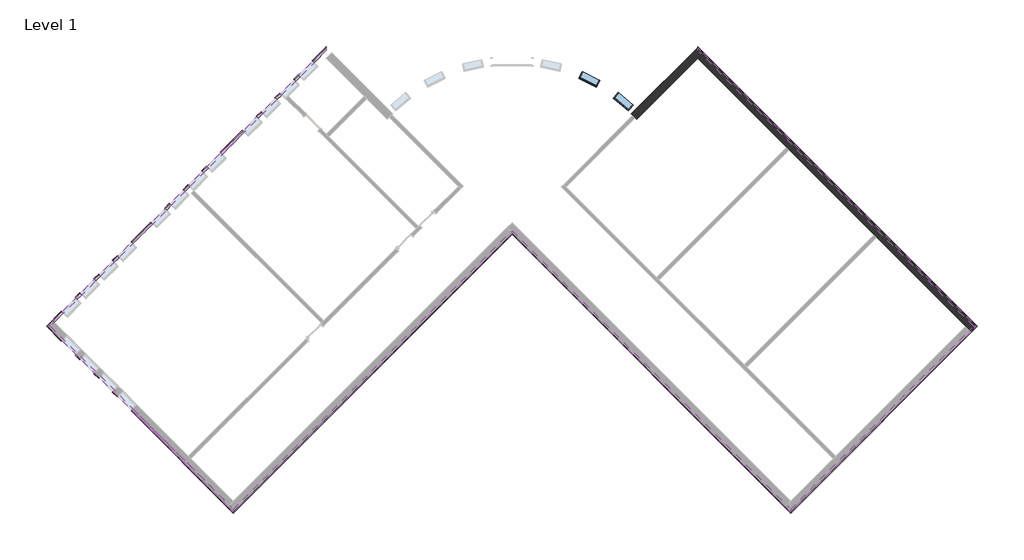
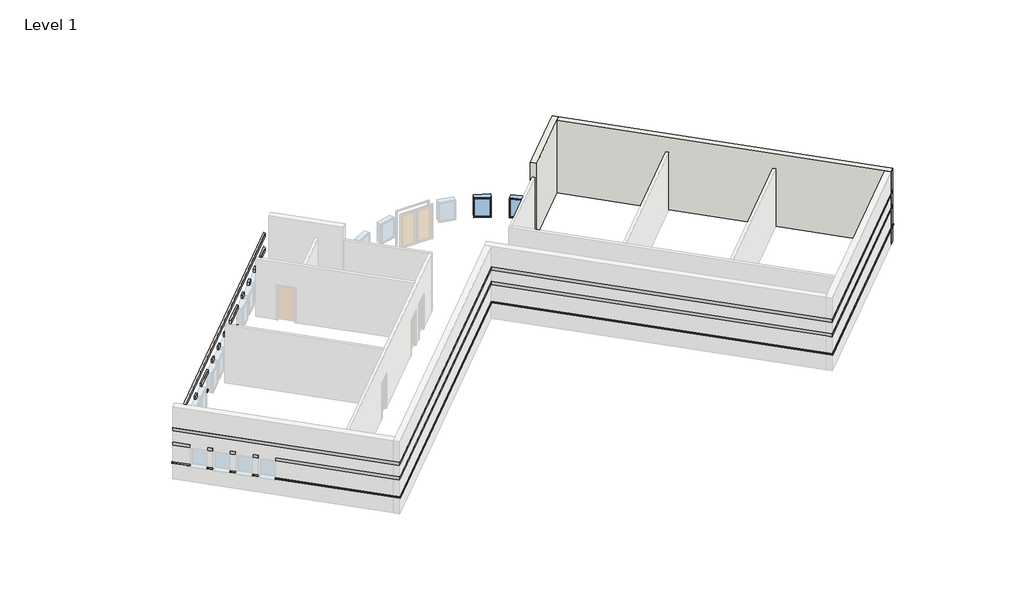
# One storey, part 2 of 2: 18 proxies, 2 walls, 2 windows.
"""IFC4 building model written with IfcOpenShell, lengths in millimetres."""

from ifc_helpers import new_model, si_unit, frame, origin, place, context, project, spatial, polyline, circle_curve, faceted_brep, transform, mapped, element, save
from ifc_brep_helpers import plane_surface, cylinder_surface, revolved_surface, advanced_brep
from components import window_0e2fc6ce

model = new_model("IFC4")

# Units and contexts
model_context = context("Model", 3, world=origin())
ifc_project = project(units=[si_unit("LENGTHUNIT", "METRE", prefix="MILLI")], contexts=[model_context])

# Site, building, storey
site = spatial("IfcSite", under=ifc_project)
building = spatial("IfcBuilding", under=site)
storey = spatial("IfcBuildingStorey", under=building, Name="Level 1", Elevation=0.0)

# Proxies
placement = place(None, origin())
element("IfcBuildingElementProxy", 1, Name="Wall Sweeps", at=placement, inside=storey, context=model_context, shape_type="Brep", body=[
    faceted_brep([(5753.0175119, 11443.3655905, 1085.85), (5753.0175119, 11573.5793042, 1085.85), (5753.0175119, 11622.9707129, 1041.4), (5753.0175119, 11622.9707129, 1016.0), (5753.0175119, 11443.3655905, 1016.0), (18554.3726125, -1357.9895101, 1085.85), (18554.3726125, -1357.9895101, 1016.0), (18733.9777349, -1357.9895101, 1016.0), (18733.9777349, -1357.9895101, 1041.4), (18684.5863263, -1357.9895101, 1085.85), (5937.1127624, 11259.27034, 1085.85), (5937.1127624, 11259.27034, 1016.0)], [[[0, 1, 2, 3, 4]], [[5, 6, 7, 8, 9]], [[1, 0, 10, 5, 9]], [[2, 1, 9, 8]], [[3, 2, 8, 7]], [[4, 3, 7, 6, 11]], [[0, 4, 11, 6, 5, 10]]]),
])
element("IfcBuildingElementProxy", 2, Name="Wall Sweeps", at=placement, inside=storey, context=model_context, shape_type="Brep", body=[
    faceted_brep([(5753.0175119, 11573.5793042, 2336.8), (5753.0175119, 11573.5793042, 2133.6), (5753.0175119, 11443.3655905, 2133.6), (5753.0175119, 11443.3655905, 2336.8), (18684.5863263, -1357.9895101, 2336.8), (18554.3726125, -1357.9895101, 2336.8), (18554.3726125, -1357.9895101, 2133.6), (18684.5863263, -1357.9895101, 2133.6), (6002.2196193, 11324.3771969, 2336.8), (6002.2196193, 11324.3771969, 2133.6), (5937.1127624, 11259.27034, 2133.6), (5937.1127624, 11259.27034, 2336.8)], [[[0, 1, 2, 3]], [[4, 5, 6, 7]], [[1, 0, 8, 4, 7, 9]], [[2, 1, 9, 7, 6, 10]], [[3, 2, 10, 6, 5, 11]], [[0, 3, 11, 5, 4, 8]]]),
])
element("IfcBuildingElementProxy", 3, Name="Wall Sweeps", at=placement, inside=storey, context=model_context, shape_type="Brep", body=[
    faceted_brep([(5753.0175119, 11573.5793042, 3251.2), (5753.0175119, 11573.5793042, 3048.0), (5753.0175119, 11443.3655905, 3048.0), (5753.0175119, 11443.3655905, 3251.2), (18684.5863263, -1357.9895101, 3251.2), (18554.3726125, -1357.9895101, 3251.2), (18554.3726125, -1357.9895101, 3048.0), (18684.5863263, -1357.9895101, 3048.0), (6002.2196193, 11324.3771969, 3251.2), (6002.2196193, 11324.3771969, 3048.0), (5937.1127624, 11259.27034, 3048.0), (5937.1127624, 11259.27034, 3251.2)], [[[0, 1, 2, 3]], [[4, 5, 6, 7]], [[1, 0, 8, 4, 7, 9]], [[2, 1, 9, 7, 6, 10]], [[3, 2, 10, 6, 5, 11]], [[0, 3, 11, 5, 4, 8]]]),
])
element("IfcBuildingElementProxy", 4, Name="Wall Sweeps", at=placement, inside=storey, context=model_context, shape_type="Brep", body=[
    faceted_brep([(18554.3726125, -1357.9895101, 1085.85), (18684.5863263, -1357.9895101, 1085.85), (18733.9777349, -1357.9895101, 1041.4), (18733.9777349, -1357.9895101, 1016.0), (18554.3726125, -1357.9895101, 1016.0), (10063.54045, -9848.8216726, 1085.85), (10063.54045, -9848.8216726, 1016.0), (10063.54045, -10028.426795, 1016.0), (10063.54045, -10028.426795, 1041.4), (10063.54045, -9979.0353863, 1085.85), (18370.277362, -1542.0847606, 1085.85), (18370.277362, -1542.0847606, 1016.0)], [[[0, 1, 2, 3, 4]], [[5, 6, 7, 8, 9]], [[1, 0, 10, 5, 9]], [[2, 1, 9, 8]], [[3, 2, 8, 7]], [[4, 3, 7, 6, 11]], [[0, 4, 11, 6, 5, 10]]]),
])
element("IfcBuildingElementProxy", 5, Name="Wall Sweeps", at=placement, inside=storey, context=model_context, shape_type="Brep", body=[
    faceted_brep([(18684.5863263, -1357.9895101, 2336.8), (18684.5863263, -1357.9895101, 2133.6), (18554.3726125, -1357.9895101, 2133.6), (18554.3726125, -1357.9895101, 2336.8), (10063.54045, -9979.0353863, 2336.8), (10063.54045, -9848.8216726, 2336.8), (10063.54045, -9848.8216726, 2133.6), (10063.54045, -9979.0353863, 2133.6), (18435.3842189, -1607.1916175, 2336.8), (18435.3842189, -1607.1916175, 2133.6), (18370.277362, -1542.0847606, 2133.6), (18370.277362, -1542.0847606, 2336.8)], [[[0, 1, 2, 3]], [[4, 5, 6, 7]], [[1, 0, 8, 4, 7, 9]], [[2, 1, 9, 7, 6, 10]], [[3, 2, 10, 6, 5, 11]], [[0, 3, 11, 5, 4, 8]]]),
])
element("IfcBuildingElementProxy", 6, Name="Wall Sweeps", at=placement, inside=storey, context=model_context, shape_type="Brep", body=[
    faceted_brep([(18684.5863263, -1357.9895101, 3251.2), (18684.5863263, -1357.9895101, 3048.0), (18554.3726125, -1357.9895101, 3048.0), (18554.3726125, -1357.9895101, 3251.2), (10063.54045, -9979.0353863, 3251.2), (10063.54045, -9848.8216726, 3251.2), (10063.54045, -9848.8216726, 3048.0), (10063.54045, -9979.0353863, 3048.0), (18435.3842189, -1607.1916175, 3251.2), (18435.3842189, -1607.1916175, 3048.0), (18370.277362, -1542.0847606, 3048.0), (18370.277362, -1542.0847606, 3251.2)], [[[0, 1, 2, 3]], [[4, 5, 6, 7]], [[1, 0, 8, 4, 7, 9]], [[2, 1, 9, 7, 6, 10]], [[3, 2, 10, 6, 5, 11]], [[0, 3, 11, 5, 4, 8]]]),
])
element("IfcBuildingElementProxy", 7, Name="Wall Sweeps", at=placement, inside=storey, context=model_context, shape_type="Brep", body=[
    faceted_brep([(10063.54045, -9848.8216726, 1085.85), (10063.54045, -9979.0353863, 1085.85), (10063.54045, -10028.426795, 1041.4), (10063.54045, -10028.426795, 1016.0), (10063.54045, -9848.8216726, 1016.0), (-2868.0283643, 3082.7471418, 1085.85), (-2868.0283643, 3082.7471418, 1016.0), (-2868.0283643, 2903.1420194, 1016.0), (-2868.0283643, 2903.1420194, 1041.4), (-2868.0283643, 2952.533428, 1085.85), (9879.4451996, -9664.7264221, 1085.85), (9879.4451996, -9664.7264221, 1016.0)], [[[0, 1, 2, 3, 4]], [[5, 6, 7, 8, 9]], [[1, 0, 10, 5, 9]], [[2, 1, 9, 8]], [[3, 2, 8, 7]], [[4, 3, 7, 6, 11]], [[0, 4, 11, 6, 5, 10]]]),
])
element("IfcBuildingElementProxy", 8, Name="Wall Sweeps", at=placement, inside=storey, context=model_context, shape_type="Brep", body=[
    faceted_brep([(10063.54045, -9979.0353863, 2336.8), (10063.54045, -9979.0353863, 2133.6), (10063.54045, -9848.8216726, 2133.6), (10063.54045, -9848.8216726, 2336.8), (-2868.0283643, 2952.533428, 2336.8), (-2868.0283643, 3082.7471418, 2336.8), (-2868.0283643, 3082.7471418, 2133.6), (-2868.0283643, 2952.533428, 2133.6), (9814.3383427, -9729.833279, 2336.8), (9814.3383427, -9729.833279, 2133.6), (9879.4451996, -9664.7264221, 2133.6), (9879.4451996, -9664.7264221, 2336.8)], [[[0, 1, 2, 3]], [[4, 5, 6, 7]], [[1, 0, 8, 4, 7, 9]], [[2, 1, 9, 7, 6, 10]], [[3, 2, 10, 6, 5, 11]], [[0, 3, 11, 5, 4, 8]]]),
])
element("IfcBuildingElementProxy", 9, Name="Wall Sweeps", at=placement, inside=storey, context=model_context, shape_type="Brep", body=[
    faceted_brep([(10063.54045, -9979.0353863, 3251.2), (10063.54045, -9979.0353863, 3048.0), (10063.54045, -9848.8216726, 3048.0), (10063.54045, -9848.8216726, 3251.2), (-2868.0283643, 2952.533428, 3251.2), (-2868.0283643, 3082.7471418, 3251.2), (-2868.0283643, 3082.7471418, 3048.0), (-2868.0283643, 2952.533428, 3048.0), (9814.3383427, -9729.833279, 3251.2), (9814.3383427, -9729.833279, 3048.0), (9879.4451996, -9664.7264221, 3048.0), (9879.4451996, -9664.7264221, 3251.2)], [[[0, 1, 2, 3]], [[4, 5, 6, 7]], [[1, 0, 8, 4, 7, 9]], [[2, 1, 9, 7, 6, 10]], [[3, 2, 10, 6, 5, 11]], [[0, 3, 11, 5, 4, 8]]]),
])
element("IfcBuildingElementProxy", 10, Name="Wall Sweeps", at=placement, inside=storey, context=model_context, shape_type="Brep", body=[
    faceted_brep([(-2868.0283643, 3082.7471418, 1085.85), (-2868.0283643, 2952.533428, 1085.85), (-2868.0283643, 2903.1420194, 1041.4), (-2868.0283643, 2903.1420194, 1016.0), (-2868.0283643, 3082.7471418, 1016.0), (-15799.5971786, -9848.8216726, 1085.85), (-15799.5971786, -9848.8216726, 1016.0), (-15799.5971786, -10028.426795, 1016.0), (-15799.5971786, -10028.426795, 1041.4), (-15799.5971786, -9979.0353863, 1085.85), (-2933.1352212, 3017.6402849, 1085.85), (-2933.1352212, 3017.6402849, 1016.0)], [[[0, 1, 2, 3, 4]], [[5, 6, 7, 8, 9]], [[1, 0, 10, 5, 9]], [[2, 1, 9, 8]], [[3, 2, 8, 7]], [[4, 3, 7, 6, 11]], [[0, 4, 11, 6, 5, 10]]]),
])
element("IfcBuildingElementProxy", 11, Name="Wall Sweeps", at=placement, inside=storey, context=model_context, shape_type="Brep", body=[
    faceted_brep([(-2868.0283643, 2952.533428, 2336.8), (-2868.0283643, 2952.533428, 2133.6), (-2868.0283643, 3082.7471418, 2133.6), (-2868.0283643, 3082.7471418, 2336.8), (-15799.5971786, -9979.0353863, 2336.8), (-15799.5971786, -9848.8216726, 2336.8), (-15799.5971786, -9848.8216726, 2133.6), (-15799.5971786, -9979.0353863, 2133.6), (-2933.1352212, 3017.6402849, 2133.6), (-2933.1352212, 3017.6402849, 2336.8)], [[[0, 1, 2, 3]], [[4, 5, 6, 7]], [[1, 0, 4, 7]], [[2, 1, 7, 6, 8]], [[3, 2, 8, 6, 5, 9]], [[0, 3, 9, 5, 4]]]),
])
element("IfcBuildingElementProxy", 12, Name="Wall Sweeps", at=placement, inside=storey, context=model_context, shape_type="Brep", body=[
    faceted_brep([(-2868.0283643, 2952.533428, 3251.2), (-2868.0283643, 2952.533428, 3048.0), (-2868.0283643, 3082.7471418, 3048.0), (-2868.0283643, 3082.7471418, 3251.2), (-15799.5971786, -9979.0353863, 3251.2), (-15799.5971786, -9848.8216726, 3251.2), (-15799.5971786, -9848.8216726, 3048.0), (-15799.5971786, -9979.0353863, 3048.0), (-2933.1352212, 3017.6402849, 3048.0), (-2933.1352212, 3017.6402849, 3251.2)], [[[0, 1, 2, 3]], [[4, 5, 6, 7]], [[1, 0, 4, 7]], [[2, 1, 7, 6, 8]], [[3, 2, 8, 6, 5, 9]], [[0, 3, 9, 5, 4]]]),
])
element("IfcBuildingElementProxy", 13, Name="Wall Sweeps", at=placement, inside=storey, context=model_context, shape_type="Brep", body=[
    faceted_brep([(-15799.5971786, -9848.8216726, 1085.85), (-15799.5971786, -9979.0353863, 1085.85), (-15799.5971786, -10028.426795, 1041.4), (-15799.5971786, -10028.426795, 1016.0), (-15799.5971786, -9848.8216726, 1016.0), (-20459.2275735, -5189.1912777, 1085.85), (-20459.2275735, -5189.1912777, 1016.0), (-20524.3344303, -5254.2981346, 1016.0), (-20549.0301347, -5278.993839, 1016.0), (-20549.0301347, -5278.993839, 1041.4), (-20524.3344303, -5254.2981346, 1085.85), (-15983.6924291, -9664.7264221, 1085.85), (-15983.6924291, -9664.7264221, 1016.0)], [[[0, 1, 2, 3, 4]], [[5, 6, 7, 8, 9, 10]], [[1, 0, 11, 5, 10]], [[2, 1, 10, 9]], [[3, 2, 9, 8]], [[4, 3, 8, 7, 6, 12]], [[0, 4, 12, 6, 5, 11]]]),
    faceted_brep([(-21105.8060142, -4542.612837, 1085.85), (-21170.9128711, -4607.7196939, 1085.85), (-21195.6085754, -4632.4153982, 1041.4), (-21195.6085754, -4632.4153982, 1016.0), (-21170.9128711, -4607.7196939, 1016.0), (-21105.8060142, -4542.612837, 1016.0), (-21321.3321611, -4327.0866901, 1085.85), (-21321.3321611, -4327.0866901, 1016.0), (-21386.439018, -4392.193547, 1016.0), (-21411.1347223, -4416.8892513, 1016.0), (-21411.1347223, -4416.8892513, 1041.4), (-21386.439018, -4392.193547, 1085.85)], [[[0, 1, 2, 3, 4, 5]], [[6, 7, 8, 9, 10, 11]], [[1, 0, 6, 11]], [[2, 1, 11, 10]], [[3, 2, 10, 9]], [[5, 4, 3, 9, 8, 7]], [[0, 5, 7, 6]]]),
    faceted_brep([(-21967.9106018, -3680.5082494, 1085.85), (-22033.0174587, -3745.6151063, 1085.85), (-22057.713163, -3770.3108106, 1041.4), (-22057.713163, -3770.3108106, 1016.0), (-22033.0174587, -3745.6151063, 1016.0), (-21967.9106018, -3680.5082494, 1016.0), (-22183.4367487, -3464.9821025, 1085.85), (-22183.4367487, -3464.9821025, 1016.0), (-22248.5436056, -3530.0889594, 1016.0), (-22273.2393099, -3554.7846637, 1016.0), (-22273.2393099, -3554.7846637, 1041.4), (-22248.5436056, -3530.0889594, 1085.85)], [[[0, 1, 2, 3, 4, 5]], [[6, 7, 8, 9, 10, 11]], [[1, 0, 6, 11]], [[2, 1, 11, 10]], [[3, 2, 10, 9]], [[5, 4, 3, 9, 8, 7]], [[0, 5, 7, 6]]]),
    faceted_brep([(-22830.0151894, -2818.4036618, 1085.85), (-22895.1220463, -2883.5105187, 1085.85), (-22919.8177506, -2908.206223, 1041.4), (-22919.8177506, -2908.206223, 1016.0), (-22895.1220463, -2883.5105187, 1016.0), (-22830.0151894, -2818.4036618, 1016.0), (-23045.5413363, -2602.8775149, 1085.85), (-23045.5413363, -2602.8775149, 1016.0), (-23110.6481932, -2667.9843718, 1016.0), (-23135.3438975, -2692.6800761, 1016.0), (-23135.3438975, -2692.6800761, 1041.4), (-23110.6481932, -2667.9843718, 1085.85)], [[[0, 1, 2, 3, 4, 5]], [[6, 7, 8, 9, 10, 11]], [[1, 0, 6, 11]], [[2, 1, 11, 10]], [[3, 2, 10, 9]], [[5, 4, 3, 9, 8, 7]], [[0, 5, 7, 6]]]),
    faceted_brep([(-23692.119777, -1956.2990742, 1085.85), (-23757.2266339, -2021.405931, 1085.85), (-23781.9223383, -2046.1016354, 1041.4), (-23781.9223383, -2046.1016354, 1016.0), (-23757.2266339, -2021.405931, 1016.0), (-23692.119777, -1956.2990742, 1016.0), (-24290.4293411, -1357.9895101, 1085.85), (-24290.4293411, -1357.9895101, 1016.0), (-24470.0344635, -1357.9895101, 1016.0), (-24470.0344635, -1357.9895101, 1041.4), (-24420.6430549, -1357.9895101, 1085.85)], [[[0, 1, 2, 3, 4, 5]], [[6, 7, 8, 9, 10]], [[1, 0, 6, 10]], [[2, 1, 10, 9]], [[3, 2, 9, 8]], [[5, 4, 3, 8, 7]], [[0, 5, 7, 6]]]),
])
element("IfcBuildingElementProxy", 14, Name="Wall Sweeps", at=placement, inside=storey, context=model_context, shape_type="Brep", body=[
    faceted_brep([(-15799.5971786, -9979.0353863, 2336.8), (-15799.5971786, -9979.0353863, 2133.6), (-15799.5971786, -9848.8216726, 2133.6), (-15799.5971786, -9848.8216726, 2336.8), (-20524.3344303, -5254.2981346, 2336.8), (-20459.2275735, -5189.1912777, 2336.8), (-20459.2275735, -5189.1912777, 2133.6), (-20524.3344303, -5254.2981346, 2133.6), (-16048.799286, -9729.833279, 2336.8), (-16048.799286, -9729.833279, 2133.6), (-15983.6924291, -9664.7264221, 2133.6), (-15983.6924291, -9664.7264221, 2336.8)], [[[0, 1, 2, 3]], [[4, 5, 6, 7]], [[1, 0, 8, 4, 7, 9]], [[2, 1, 9, 7, 6, 10]], [[3, 2, 10, 6, 5, 11]], [[0, 3, 11, 5, 4, 8]]]),
    faceted_brep([(-21170.9128711, -4607.7196939, 2336.8), (-21170.9128711, -4607.7196939, 2133.6), (-21105.8060142, -4542.612837, 2133.6), (-21105.8060142, -4542.612837, 2336.8), (-21386.439018, -4392.193547, 2336.8), (-21321.3321611, -4327.0866901, 2336.8), (-21321.3321611, -4327.0866901, 2133.6), (-21386.439018, -4392.193547, 2133.6)], [[[0, 1, 2, 3]], [[4, 5, 6, 7]], [[1, 0, 4, 7]], [[2, 1, 7, 6]], [[3, 2, 6, 5]], [[0, 3, 5, 4]]]),
    faceted_brep([(-22033.0174587, -3745.6151063, 2336.8), (-22033.0174587, -3745.6151063, 2133.6), (-21967.9106018, -3680.5082494, 2133.6), (-21967.9106018, -3680.5082494, 2336.8), (-22248.5436056, -3530.0889594, 2336.8), (-22183.4367487, -3464.9821025, 2336.8), (-22183.4367487, -3464.9821025, 2133.6), (-22248.5436056, -3530.0889594, 2133.6)], [[[0, 1, 2, 3]], [[4, 5, 6, 7]], [[1, 0, 4, 7]], [[2, 1, 7, 6]], [[3, 2, 6, 5]], [[0, 3, 5, 4]]]),
    faceted_brep([(-22895.1220463, -2883.5105187, 2336.8), (-22895.1220463, -2883.5105187, 2133.6), (-22830.0151894, -2818.4036618, 2133.6), (-22830.0151894, -2818.4036618, 2336.8), (-23110.6481932, -2667.9843718, 2336.8), (-23045.5413363, -2602.8775149, 2336.8), (-23045.5413363, -2602.8775149, 2133.6), (-23110.6481932, -2667.9843718, 2133.6)], [[[0, 1, 2, 3]], [[4, 5, 6, 7]], [[1, 0, 4, 7]], [[2, 1, 7, 6]], [[3, 2, 6, 5]], [[0, 3, 5, 4]]]),
    faceted_brep([(-23757.2266339, -2021.405931, 2336.8), (-23757.2266339, -2021.405931, 2133.6), (-23692.119777, -1956.2990742, 2133.6), (-23692.119777, -1956.2990742, 2336.8), (-24420.6430549, -1357.9895101, 2336.8), (-24290.4293411, -1357.9895101, 2336.8), (-24290.4293411, -1357.9895101, 2133.6), (-24420.6430549, -1357.9895101, 2133.6)], [[[0, 1, 2, 3]], [[4, 5, 6, 7]], [[1, 0, 4, 7]], [[2, 1, 7, 6]], [[3, 2, 6, 5]], [[0, 3, 5, 4]]]),
])
element("IfcBuildingElementProxy", 15, Name="Wall Sweeps", at=placement, inside=storey, context=model_context, shape_type="Brep", body=[
    faceted_brep([(-15799.5971786, -9979.0353863, 3251.2), (-15799.5971786, -9979.0353863, 3048.0), (-15799.5971786, -9848.8216726, 3048.0), (-15799.5971786, -9848.8216726, 3251.2), (-24420.6430549, -1357.9895101, 3251.2), (-24290.4293411, -1357.9895101, 3251.2), (-24290.4293411, -1357.9895101, 3048.0), (-24420.6430549, -1357.9895101, 3048.0), (-16048.799286, -9729.833279, 3251.2), (-16048.799286, -9729.833279, 3048.0), (-15983.6924291, -9664.7264221, 3048.0), (-15983.6924291, -9664.7264221, 3251.2)], [[[0, 1, 2, 3]], [[4, 5, 6, 7]], [[1, 0, 8, 4, 7, 9]], [[2, 1, 9, 7, 6, 10]], [[3, 2, 10, 6, 5, 11]], [[0, 3, 11, 5, 4, 8]]]),
])
element("IfcBuildingElementProxy", 16, Name="Wall Sweeps", at=placement, inside=storey, context=model_context, shape_type="Brep", body=[
    faceted_brep([(-24290.4293411, -1357.9895101, 1085.85), (-24420.6430549, -1357.9895101, 1085.85), (-24470.0344635, -1357.9895101, 1041.4), (-24470.0344635, -1357.9895101, 1016.0), (-24290.4293411, -1357.9895101, 1016.0), (-23692.119777, -759.679946, 1085.85), (-23692.119777, -759.679946, 1016.0), (-23757.2266339, -694.5730891, 1016.0), (-23781.9223383, -669.8773848, 1016.0), (-23781.9223383, -669.8773848, 1041.4), (-23757.2266339, -694.5730891, 1085.85), (-24106.3340906, -1173.8942596, 1085.85), (-24106.3340906, -1173.8942596, 1016.0)], [[[0, 1, 2, 3, 4]], [[5, 6, 7, 8, 9, 10]], [[1, 0, 11, 5, 10]], [[2, 1, 10, 9]], [[3, 2, 9, 8]], [[4, 3, 8, 7, 6, 12]], [[0, 4, 12, 6, 5, 11]]]),
    faceted_brep([(-23045.5413363, -113.1015053, 1085.85), (-23110.6481932, -47.9946484, 1085.85), (-23135.3438975, -23.2989441, 1041.4), (-23135.3438975, -23.2989441, 1016.0), (-23110.6481932, -47.9946484, 1016.0), (-23045.5413363, -113.1015053, 1016.0), (-22830.0151894, 102.4246416, 1085.85), (-22830.0151894, 102.4246416, 1016.0), (-22895.1220463, 167.5314985, 1016.0), (-22919.8177506, 192.2272028, 1016.0), (-22919.8177506, 192.2272028, 1041.4), (-22895.1220463, 167.5314985, 1085.85)], [[[0, 1, 2, 3, 4, 5]], [[6, 7, 8, 9, 10, 11]], [[1, 0, 6, 11]], [[2, 1, 11, 10]], [[3, 2, 10, 9]], [[5, 4, 3, 9, 8, 7]], [[0, 5, 7, 6]]]),
    faceted_brep([(-22183.4367487, 749.0030823, 1085.85), (-22248.5436056, 814.1099392, 1085.85), (-22273.2393099, 838.8056435, 1041.4), (-22273.2393099, 838.8056435, 1016.0), (-22248.5436056, 814.1099392, 1016.0), (-22183.4367487, 749.0030823, 1016.0), (-21967.9106018, 964.5292292, 1085.85), (-21967.9106018, 964.5292292, 1016.0), (-22033.0174587, 1029.6360861, 1016.0), (-22057.713163, 1054.3317904, 1016.0), (-22057.713163, 1054.3317904, 1041.4), (-22033.0174587, 1029.6360861, 1085.85)], [[[0, 1, 2, 3, 4, 5]], [[6, 7, 8, 9, 10, 11]], [[1, 0, 6, 11]], [[2, 1, 11, 10]], [[3, 2, 10, 9]], [[5, 4, 3, 9, 8, 7]], [[0, 5, 7, 6]]]),
    faceted_brep([(-21321.3321611, 1611.1076699, 1085.85), (-21386.439018, 1676.2145268, 1085.85), (-21411.1347223, 1700.9102311, 1041.4), (-21411.1347223, 1700.9102311, 1016.0), (-21386.439018, 1676.2145268, 1016.0), (-21321.3321611, 1611.1076699, 1016.0), (-21105.8060142, 1826.6338168, 1085.85), (-21105.8060142, 1826.6338168, 1016.0), (-21170.9128711, 1891.7406737, 1016.0), (-21195.6085754, 1916.4363781, 1016.0), (-21195.6085754, 1916.4363781, 1041.4), (-21170.9128711, 1891.7406737, 1085.85)], [[[0, 1, 2, 3, 4, 5]], [[6, 7, 8, 9, 10, 11]], [[1, 0, 6, 11]], [[2, 1, 11, 10]], [[3, 2, 10, 9]], [[5, 4, 3, 9, 8, 7]], [[0, 5, 7, 6]]]),
    faceted_brep([(-20459.2275735, 2473.2122576, 1085.85), (-20524.3344303, 2538.3191144, 1085.85), (-20549.0301347, 2563.0148188, 1041.4), (-20549.0301347, 2563.0148188, 1016.0), (-20524.3344303, 2538.3191144, 1016.0), (-20459.2275735, 2473.2122576, 1016.0), (-19544.2461989, 3388.1936322, 1085.85), (-19544.2461989, 3388.1936322, 1016.0), (-19609.3530557, 3453.300489, 1016.0), (-19634.0487601, 3477.9961934, 1016.0), (-19634.0487601, 3477.9961934, 1041.4), (-19609.3530557, 3453.300489, 1085.85)], [[[0, 1, 2, 3, 4, 5]], [[6, 7, 8, 9, 10, 11]], [[1, 0, 6, 11]], [[2, 1, 11, 10]], [[3, 2, 10, 9]], [[5, 4, 3, 9, 8, 7]], [[0, 5, 7, 6]]]),
    faceted_brep([(-18897.6677581, 4034.7720729, 1085.85), (-18962.774615, 4099.8789298, 1085.85), (-18987.4703194, 4124.5746341, 1041.4), (-18987.4703194, 4124.5746341, 1016.0), (-18962.774615, 4099.8789298, 1016.0), (-18897.6677581, 4034.7720729, 1016.0), (-18682.1416112, 4250.2982198, 1085.85), (-18682.1416112, 4250.2982198, 1016.0), (-18747.2484681, 4315.4050767, 1016.0), (-18771.9441724, 4340.100781, 1016.0), (-18771.9441724, 4340.100781, 1041.4), (-18747.2484681, 4315.4050767, 1085.85)], [[[0, 1, 2, 3, 4, 5]], [[6, 7, 8, 9, 10, 11]], [[1, 0, 6, 11]], [[2, 1, 11, 10]], [[3, 2, 10, 9]], [[5, 4, 3, 9, 8, 7]], [[0, 5, 7, 6]]]),
    faceted_brep([(-18035.5631705, 4896.8766605, 1085.85), (-18100.6700274, 4961.9835174, 1085.85), (-18125.3657317, 4986.6792217, 1041.4), (-18125.3657317, 4986.6792217, 1016.0), (-18100.6700274, 4961.9835174, 1016.0), (-18035.5631705, 4896.8766605, 1016.0), (-17820.0370236, 5112.4028074, 1085.85), (-17820.0370236, 5112.4028074, 1016.0), (-17885.1438805, 5177.5096643, 1016.0), (-17909.8395848, 5202.2053686, 1016.0), (-17909.8395848, 5202.2053686, 1041.4), (-17885.1438805, 5177.5096643, 1085.85)], [[[0, 1, 2, 3, 4, 5]], [[6, 7, 8, 9, 10, 11]], [[1, 0, 6, 11]], [[2, 1, 11, 10]], [[3, 2, 10, 9]], [[5, 4, 3, 9, 8, 7]], [[0, 5, 7, 6]]]),
    faceted_brep([(-17173.4585829, 5758.9812481, 1085.85), (-17238.5654398, 5824.088105, 1085.85), (-17263.2611441, 5848.7838093, 1041.4), (-17263.2611441, 5848.7838093, 1016.0), (-17238.5654398, 5824.088105, 1016.0), (-17173.4585829, 5758.9812481, 1016.0), (-16957.932436, 5974.507395, 1085.85), (-16957.932436, 5974.507395, 1016.0), (-17023.0392929, 6039.6142519, 1016.0), (-17047.7349972, 6064.3099562, 1016.0), (-17047.7349972, 6064.3099562, 1041.4), (-17023.0392929, 6039.6142519, 1085.85)], [[[0, 1, 2, 3, 4, 5]], [[6, 7, 8, 9, 10, 11]], [[1, 0, 6, 11]], [[2, 1, 11, 10]], [[3, 2, 10, 9]], [[5, 4, 3, 9, 8, 7]], [[0, 5, 7, 6]]]),
    faceted_brep([(-16311.3539953, 6621.0858357, 1085.85), (-16376.4608522, 6686.1926926, 1085.85), (-16401.1565565, 6710.888397, 1041.4), (-16401.1565565, 6710.888397, 1016.0), (-16376.4608522, 6686.1926926, 1016.0), (-16311.3539953, 6621.0858357, 1016.0), (-15286.3644832, 7646.0753478, 1085.85), (-15286.3644832, 7646.0753478, 1016.0), (-15351.4713401, 7711.1822047, 1016.0), (-15376.1670444, 7735.877909, 1016.0), (-15376.1670444, 7735.877909, 1041.4), (-15351.4713401, 7711.1822047, 1085.85)], [[[0, 1, 2, 3, 4, 5]], [[6, 7, 8, 9, 10, 11]], [[1, 0, 6, 11]], [[2, 1, 11, 10]], [[3, 2, 10, 9]], [[5, 4, 3, 9, 8, 7]], [[0, 5, 7, 6]]]),
    faceted_brep([(-14639.7860425, 8292.6537886, 1085.85), (-14704.8928993, 8357.7606454, 1085.85), (-14729.5886037, 8382.4563498, 1041.4), (-14729.5886037, 8382.4563498, 1016.0), (-14704.8928993, 8357.7606454, 1016.0), (-14639.7860425, 8292.6537886, 1016.0), (-14424.2598956, 8508.1799355, 1085.85), (-14424.2598956, 8508.1799355, 1016.0), (-14489.3667524, 8573.2867923, 1016.0), (-14514.0624568, 8597.9824967, 1016.0), (-14514.0624568, 8597.9824967, 1041.4), (-14489.3667524, 8573.2867923, 1085.85)], [[[0, 1, 2, 3, 4, 5]], [[6, 7, 8, 9, 10, 11]], [[1, 0, 6, 11]], [[2, 1, 11, 10]], [[3, 2, 10, 9]], [[5, 4, 3, 9, 8, 7]], [[0, 5, 7, 6]]]),
    faceted_brep([(-13777.6814548, 9154.7583762, 1085.85), (-13842.7883117, 9219.8652331, 1085.85), (-13867.4840161, 9244.5609374, 1041.4), (-13867.4840161, 9244.5609374, 1016.0), (-13842.7883117, 9219.8652331, 1016.0), (-13777.6814548, 9154.7583762, 1016.0), (-13562.1553079, 9370.2845231, 1085.85), (-13562.1553079, 9370.2845231, 1016.0), (-13627.2621648, 9435.39138, 1016.0), (-13651.9578691, 9460.0870843, 1016.0), (-13651.9578691, 9460.0870843, 1041.4), (-13627.2621648, 9435.39138, 1085.85)], [[[0, 1, 2, 3, 4, 5]], [[6, 7, 8, 9, 10, 11]], [[1, 0, 6, 11]], [[2, 1, 11, 10]], [[3, 2, 10, 9]], [[5, 4, 3, 9, 8, 7]], [[0, 5, 7, 6]]]),
    faceted_brep([(-12915.5768672, 10016.8629638, 1085.85), (-12980.6837241, 10081.9698207, 1085.85), (-13005.3794284, 10106.665525, 1041.4), (-13005.3794284, 10106.665525, 1016.0), (-12980.6837241, 10081.9698207, 1016.0), (-12915.5768672, 10016.8629638, 1016.0), (-12700.0507203, 10232.3891107, 1085.85), (-12700.0507203, 10232.3891107, 1016.0), (-12765.1575772, 10297.4959676, 1016.0), (-12789.8532815, 10322.1916719, 1016.0), (-12789.8532815, 10322.1916719, 1041.4), (-12765.1575772, 10297.4959676, 1085.85)], [[[0, 1, 2, 3, 4, 5]], [[6, 7, 8, 9, 10, 11]], [[1, 0, 6, 11]], [[2, 1, 11, 10]], [[3, 2, 10, 9]], [[5, 4, 3, 9, 8, 7]], [[0, 5, 7, 6]]]),
    faceted_brep([(-12053.4722796, 10878.9675514, 1085.85), (-12118.5791365, 10944.0744083, 1085.85), (-12143.2748408, 10968.7701126, 1041.4), (-12143.2748408, 10968.7701126, 1016.0), (-12118.5791365, 10944.0744083, 1016.0), (-12053.4722796, 10878.9675514, 1016.0), (-11489.0742405, 11443.3655905, 1085.85), (-11489.0742405, 11443.3655905, 1016.0), (-11489.0742405, 11622.9707129, 1016.0), (-11489.0742405, 11622.9707129, 1041.4), (-11489.0742405, 11573.5793042, 1085.85)], [[[0, 1, 2, 3, 4, 5]], [[6, 7, 8, 9, 10]], [[1, 0, 6, 10]], [[2, 1, 10, 9]], [[3, 2, 9, 8]], [[5, 4, 3, 8, 7]], [[0, 5, 7, 6]]]),
])
element("IfcBuildingElementProxy", 17, Name="Wall Sweeps", at=placement, inside=storey, context=model_context, shape_type="Brep", body=[
    faceted_brep([(-24420.6430549, -1357.9895101, 2336.8), (-24420.6430549, -1357.9895101, 2133.6), (-24290.4293411, -1357.9895101, 2133.6), (-24290.4293411, -1357.9895101, 2336.8), (-23757.2266339, -694.5730891, 2336.8), (-23692.119777, -759.679946, 2336.8), (-23692.119777, -759.679946, 2133.6), (-23757.2266339, -694.5730891, 2133.6), (-24171.4409475, -1108.7874027, 2336.8), (-24171.4409475, -1108.7874027, 2133.6), (-24106.3340906, -1173.8942596, 2133.6), (-24106.3340906, -1173.8942596, 2336.8)], [[[0, 1, 2, 3]], [[4, 5, 6, 7]], [[1, 0, 8, 4, 7, 9]], [[2, 1, 9, 7, 6, 10]], [[3, 2, 10, 6, 5, 11]], [[0, 3, 11, 5, 4, 8]]]),
    faceted_brep([(-23110.6481932, -47.9946484, 2336.8), (-23110.6481932, -47.9946484, 2133.6), (-23045.5413363, -113.1015053, 2133.6), (-23045.5413363, -113.1015053, 2336.8), (-22895.1220463, 167.5314985, 2336.8), (-22830.0151894, 102.4246416, 2336.8), (-22830.0151894, 102.4246416, 2133.6), (-22895.1220463, 167.5314985, 2133.6)], [[[0, 1, 2, 3]], [[4, 5, 6, 7]], [[1, 0, 4, 7]], [[2, 1, 7, 6]], [[3, 2, 6, 5]], [[0, 3, 5, 4]]]),
    faceted_brep([(-22248.5436056, 814.1099392, 2336.8), (-22248.5436056, 814.1099392, 2133.6), (-22183.4367487, 749.0030823, 2133.6), (-22183.4367487, 749.0030823, 2336.8), (-22033.0174587, 1029.6360861, 2336.8), (-21967.9106018, 964.5292292, 2336.8), (-21967.9106018, 964.5292292, 2133.6), (-22033.0174587, 1029.6360861, 2133.6)], [[[0, 1, 2, 3]], [[4, 5, 6, 7]], [[1, 0, 4, 7]], [[2, 1, 7, 6]], [[3, 2, 6, 5]], [[0, 3, 5, 4]]]),
    faceted_brep([(-21386.439018, 1676.2145268, 2336.8), (-21386.439018, 1676.2145268, 2133.6), (-21321.3321611, 1611.1076699, 2133.6), (-21321.3321611, 1611.1076699, 2336.8), (-21170.9128711, 1891.7406737, 2336.8), (-21105.8060142, 1826.6338168, 2336.8), (-21105.8060142, 1826.6338168, 2133.6), (-21170.9128711, 1891.7406737, 2133.6)], [[[0, 1, 2, 3]], [[4, 5, 6, 7]], [[1, 0, 4, 7]], [[2, 1, 7, 6]], [[3, 2, 6, 5]], [[0, 3, 5, 4]]]),
    faceted_brep([(-20524.3344303, 2538.3191144, 2336.8), (-20524.3344303, 2538.3191144, 2133.6), (-20459.2275735, 2473.2122576, 2133.6), (-20459.2275735, 2473.2122576, 2336.8), (-19609.3530557, 3453.300489, 2336.8), (-19544.2461989, 3388.1936322, 2336.8), (-19544.2461989, 3388.1936322, 2133.6), (-19609.3530557, 3453.300489, 2133.6)], [[[0, 1, 2, 3]], [[4, 5, 6, 7]], [[1, 0, 4, 7]], [[2, 1, 7, 6]], [[3, 2, 6, 5]], [[0, 3, 5, 4]]]),
    faceted_brep([(-18962.774615, 4099.8789298, 2336.8), (-18962.774615, 4099.8789298, 2133.6), (-18897.6677581, 4034.7720729, 2133.6), (-18897.6677581, 4034.7720729, 2336.8), (-18747.2484681, 4315.4050767, 2336.8), (-18682.1416112, 4250.2982198, 2336.8), (-18682.1416112, 4250.2982198, 2133.6), (-18747.2484681, 4315.4050767, 2133.6)], [[[0, 1, 2, 3]], [[4, 5, 6, 7]], [[1, 0, 4, 7]], [[2, 1, 7, 6]], [[3, 2, 6, 5]], [[0, 3, 5, 4]]]),
    faceted_brep([(-18100.6700274, 4961.9835174, 2336.8), (-18100.6700274, 4961.9835174, 2133.6), (-18035.5631705, 4896.8766605, 2133.6), (-18035.5631705, 4896.8766605, 2336.8), (-17885.1438805, 5177.5096643, 2336.8), (-17820.0370236, 5112.4028074, 2336.8), (-17820.0370236, 5112.4028074, 2133.6), (-17885.1438805, 5177.5096643, 2133.6)], [[[0, 1, 2, 3]], [[4, 5, 6, 7]], [[1, 0, 4, 7]], [[2, 1, 7, 6]], [[3, 2, 6, 5]], [[0, 3, 5, 4]]]),
    faceted_brep([(-17238.5654398, 5824.088105, 2336.8), (-17238.5654398, 5824.088105, 2133.6), (-17173.4585829, 5758.9812481, 2133.6), (-17173.4585829, 5758.9812481, 2336.8), (-17023.0392929, 6039.6142519, 2336.8), (-16957.932436, 5974.507395, 2336.8), (-16957.932436, 5974.507395, 2133.6), (-17023.0392929, 6039.6142519, 2133.6)], [[[0, 1, 2, 3]], [[4, 5, 6, 7]], [[1, 0, 4, 7]], [[2, 1, 7, 6]], [[3, 2, 6, 5]], [[0, 3, 5, 4]]]),
    faceted_brep([(-16376.4608522, 6686.1926926, 2336.8), (-16376.4608522, 6686.1926926, 2133.6), (-16311.3539953, 6621.0858357, 2133.6), (-16311.3539953, 6621.0858357, 2336.8), (-15351.4713401, 7711.1822047, 2336.8), (-15286.3644832, 7646.0753478, 2336.8), (-15286.3644832, 7646.0753478, 2133.6), (-15351.4713401, 7711.1822047, 2133.6)], [[[0, 1, 2, 3]], [[4, 5, 6, 7]], [[1, 0, 4, 7]], [[2, 1, 7, 6]], [[3, 2, 6, 5]], [[0, 3, 5, 4]]]),
    faceted_brep([(-14704.8928993, 8357.7606454, 2336.8), (-14704.8928993, 8357.7606454, 2133.6), (-14639.7860425, 8292.6537886, 2133.6), (-14639.7860425, 8292.6537886, 2336.8), (-14489.3667524, 8573.2867923, 2336.8), (-14424.2598956, 8508.1799355, 2336.8), (-14424.2598956, 8508.1799355, 2133.6), (-14489.3667524, 8573.2867923, 2133.6)], [[[0, 1, 2, 3]], [[4, 5, 6, 7]], [[1, 0, 4, 7]], [[2, 1, 7, 6]], [[3, 2, 6, 5]], [[0, 3, 5, 4]]]),
    faceted_brep([(-13842.7883117, 9219.8652331, 2336.8), (-13842.7883117, 9219.8652331, 2133.6), (-13777.6814548, 9154.7583762, 2133.6), (-13777.6814548, 9154.7583762, 2336.8), (-13627.2621648, 9435.39138, 2336.8), (-13562.1553079, 9370.2845231, 2336.8), (-13562.1553079, 9370.2845231, 2133.6), (-13627.2621648, 9435.39138, 2133.6)], [[[0, 1, 2, 3]], [[4, 5, 6, 7]], [[1, 0, 4, 7]], [[2, 1, 7, 6]], [[3, 2, 6, 5]], [[0, 3, 5, 4]]]),
    faceted_brep([(-12980.6837241, 10081.9698207, 2336.8), (-12980.6837241, 10081.9698207, 2133.6), (-12915.5768672, 10016.8629638, 2133.6), (-12915.5768672, 10016.8629638, 2336.8), (-12765.1575772, 10297.4959676, 2336.8), (-12700.0507203, 10232.3891107, 2336.8), (-12700.0507203, 10232.3891107, 2133.6), (-12765.1575772, 10297.4959676, 2133.6)], [[[0, 1, 2, 3]], [[4, 5, 6, 7]], [[1, 0, 4, 7]], [[2, 1, 7, 6]], [[3, 2, 6, 5]], [[0, 3, 5, 4]]]),
    faceted_brep([(-12118.5791365, 10944.0744083, 2336.8), (-12118.5791365, 10944.0744083, 2133.6), (-12053.4722796, 10878.9675514, 2133.6), (-12053.4722796, 10878.9675514, 2336.8), (-11489.0742405, 11573.5793042, 2336.8), (-11489.0742405, 11443.3655905, 2336.8), (-11489.0742405, 11443.3655905, 2133.6), (-11489.0742405, 11573.5793042, 2133.6)], [[[0, 1, 2, 3]], [[4, 5, 6, 7]], [[1, 0, 4, 7]], [[2, 1, 7, 6]], [[3, 2, 6, 5]], [[0, 3, 5, 4]]]),
])
element("IfcBuildingElementProxy", 18, Name="Wall Sweeps", at=placement, inside=storey, context=model_context, shape_type="Brep", body=[
    faceted_brep([(-24420.6430549, -1357.9895101, 3251.2), (-24420.6430549, -1357.9895101, 3048.0), (-24290.4293411, -1357.9895101, 3048.0), (-24290.4293411, -1357.9895101, 3251.2), (-11489.0742405, 11573.5793042, 3251.2), (-11489.0742405, 11443.3655905, 3251.2), (-11489.0742405, 11443.3655905, 3048.0), (-11489.0742405, 11573.5793042, 3048.0), (-24171.4409475, -1108.7874027, 3251.2), (-24171.4409475, -1108.7874027, 3048.0), (-24106.3340906, -1173.8942596, 3048.0), (-24106.3340906, -1173.8942596, 3251.2)], [[[0, 1, 2, 3]], [[4, 5, 6, 7]], [[1, 0, 8, 4, 7, 9]], [[2, 1, 9, 7, 6, 10]], [[3, 2, 10, 6, 5, 11]], [[0, 3, 11, 5, 4, 8]]]),
])

# Walls
element("IfcWall", 19, ObjectType="Exterior - Split Face and CMU on Mtl. Stud", at=placement, inside=storey, context=model_context, shape_type="AdvancedBrep", body=[
    advanced_brep(
    [(2921.9555443, 8244.1131219, 0.0), (5753.0175119, 11075.1750895, 0.0), (6002.2196193, 11324.3771969, 0.0), (6002.2196193, 11324.3771969, 1016.0), (5937.1127624, 11259.27034, 1016.0), (5937.1127624, 11259.27034, 1085.85), (6002.2196193, 11324.3771969, 1085.85), (6002.2196193, 11324.3771969, 2133.6), (5937.1127624, 11259.27034, 2133.6), (5937.1127624, 11259.27034, 2336.8), (6002.2196193, 11324.3771969, 2336.8), (6002.2196193, 11324.3771969, 3048.0), (5937.1127624, 11259.27034, 3048.0), (5937.1127624, 11259.27034, 3251.2), (6002.2196193, 11324.3771969, 3251.2), (6002.2196193, 11324.3771969, 4572.0), (5753.0175119, 11075.1750895, 4572.0), (2921.9555443, 8244.1131219, 4572.0), (2677.2250436, 8497.7868359, 4572.0), (2926.4294954, 8746.9912878, 4572.0), (5753.0175119, 11573.5793042, 4572.0), (5753.0175119, 11573.5793042, 3251.2), (2926.4294954, 8746.9912878, 3251.2), (2861.3220456, 8681.8838379, 3251.2), (2861.3220456, 8681.8838379, 3048.0), (2926.4294954, 8746.9912878, 3048.0), (5753.0175119, 11573.5793042, 3048.0), (5753.0175119, 11573.5793042, 2336.8), (2926.4294954, 8746.9912878, 2336.8), (2861.3220456, 8681.8838379, 2336.8), (2861.3220456, 8681.8838379, 2133.6), (2926.4294954, 8746.9912878, 2133.6), (5753.0175119, 11573.5793042, 2133.6), (5753.0175119, 11573.5793042, 1085.85), (2926.4294954, 8746.9912878, 1085.85), (2861.3220456, 8681.8838379, 1085.85), (2861.3220456, 8681.8838379, 1016.0), (2926.4294954, 8746.9912878, 1016.0), (5753.0175119, 11573.5793042, 1016.0), (5753.0175119, 11573.5793042, 0.0), (2926.4294954, 8746.9912878, 0.0), (2677.2250436, 8497.7868359, 0.0), (5818.1243688, 11508.4724474, 0.0), (2742.2400511, 8432.5881297, 0.0), (2746.695582, 8428.0638276, 0.0), (2854.7283421, 8316.0840715, 0.0), (5753.0175119, 11443.3655905, 1085.85), (2926.3399919, 8616.6880705, 1085.85), (2926.3399919, 8616.6880705, 1016.0), (5753.0175119, 11443.3655905, 1016.0), (2926.3399919, 8616.6880705, 2133.6), (5753.0175119, 11443.3655905, 2133.6), (2926.3399919, 8616.6880705, 2336.8), (5753.0175119, 11443.3655905, 2336.8), (2926.3399919, 8616.6880705, 3048.0), (5753.0175119, 11443.3655905, 3048.0), (2926.3399919, 8616.6880705, 3251.2), (5753.0175119, 11443.3655905, 3251.2)],
    [
        (0, 1),
        (1, 2),
        (2, 3),
        (3, 4),
        (4, 5),
        (5, 6),
        (6, 7),
        (7, 8),
        (8, 9),
        (9, 10),
        (10, 11),
        (11, 12),
        (12, 13),
        (13, 14),
        (14, 15),
        (15, 16),
        (16, 17),
        (17, 0),
        (18, 19),
        (19, 20),
        (20, 21),
        (21, 22),
        (22, 23),
        (23, 24),
        (24, 25),
        (25, 26),
        (26, 27),
        (27, 28),
        (28, 29),
        (29, 30),
        (30, 31),
        (31, 32),
        (32, 33),
        (33, 34),
        (34, 35),
        (35, 36),
        (36, 37),
        (37, 38),
        (38, 39),
        (39, 40),
        (40, 41),
        (41, 18),
        (15, 20),
        (18, 17, circle_curve(frame((-2868.0283643, 2903.1420194, 4572.0), z_axis=(0.0, 0.0, -1.0), x_axis=(1.0, 0.0, 0.0)), 7877.175)),
        (14, 21),
        (2, 42),
        (42, 39),
        (38, 3),
        (6, 33),
        (32, 7),
        (10, 27),
        (26, 11),
        (41, 43, circle_curve(frame((-2868.0283643, 2903.1420194, 0.0), z_axis=(0.0, 0.0, -1.0), x_axis=(1.0, 0.0, 0.0)), 7877.175)),
        (43, 44, circle_curve(frame((-2868.0283643, 2903.1420194, 0.0), z_axis=(0.0, 0.0, -1.0), x_axis=(1.0, 0.0, 0.0)), 7877.175)),
        (44, 45, circle_curve(frame((-2868.0283643, 2903.1420194, 0.0), z_axis=(0.0, 0.0, -1.0), x_axis=(1.0, 0.0, 0.0)), 7877.175)),
        (45, 0, circle_curve(frame((-2868.0283643, 2903.1420194, 0.0), z_axis=(0.0, 0.0, -1.0), x_axis=(1.0, 0.0, 0.0)), 7877.175)),
        (43, 42),
        (46, 47),
        (47, 35, circle_curve(frame((-2868.0283643, 2903.1420194, 1085.85), z_axis=(0.0, 0.0, 1.0), x_axis=(-0.7040995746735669, 0.7101012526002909, 0.0)), 8137.525)),
        (5, 46),
        (48, 49),
        (49, 4),
        (36, 48, circle_curve(frame((-2868.0283643, 2903.1420194, 1016.0), z_axis=(0.0, 0.0, -1.0), x_axis=(-0.7040995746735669, 0.7101012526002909, 0.0)), 8137.525)),
        (47, 48),
        (46, 49),
        (50, 51),
        (51, 8),
        (30, 50, circle_curve(frame((-2868.0283643, 2903.1420194, 2133.6), z_axis=(0.0, 0.0, -1.0), x_axis=(-0.7040995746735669, 0.7101012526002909, 0.0)), 8137.525)),
        (52, 50),
        (29, 52, circle_curve(frame((-2868.0283643, 2903.1420194, 2336.8), z_axis=(0.0, 0.0, -1.0), x_axis=(-0.7040995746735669, 0.7101012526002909, 0.0)), 8137.525)),
        (53, 52),
        (9, 53),
        (53, 51),
        (54, 55),
        (55, 12),
        (24, 54, circle_curve(frame((-2868.0283643, 2903.1420194, 3048.0), z_axis=(0.0, 0.0, -1.0), x_axis=(-0.7040995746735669, 0.7101012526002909, 0.0)), 8137.525)),
        (56, 54),
        (23, 56, circle_curve(frame((-2868.0283643, 2903.1420194, 3251.2), z_axis=(0.0, 0.0, -1.0), x_axis=(-0.7040995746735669, 0.7101012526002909, 0.0)), 8137.525)),
        (57, 56),
        (13, 57),
        (57, 55),
    ],
    [
        plane_surface(frame((2984.8535626, 8307.0111402, 0.0), z_axis=(0.707106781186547, -0.7071067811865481, 0.0), x_axis=(0.7071067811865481, 0.707106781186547, 0.0))),
        plane_surface(frame((2735.6514552, 8556.2132476, 0.0), z_axis=(-0.707106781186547, 0.7071067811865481, 0.0), x_axis=(-0.7071067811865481, -0.707106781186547, 0.0))),
        plane_surface(frame((5877.6185656, 11199.7761432, 4572.0), z_axis=(0.0, 0.0, 1.0), x_axis=(-0.707106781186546, 0.7071067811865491, 0.0))),
        plane_surface(frame((5753.0175119, 11573.5793042, 0.0), z_axis=(0.7071067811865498, 0.7071067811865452, 0.0), x_axis=(-0.7071067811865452, 0.7071067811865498, 0.0))),
        revolved_surface(polyline([(5009.146635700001, 2903.1420194, 0.0), (5009.146635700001, 2903.1420194, 4572.0)]), (-2868.0283643, 2903.1420194, 0.0), (0.0, 0.0, -1.0)),
        plane_surface(frame((3050.2065213, 8372.3640989, 0.0), z_axis=(0.0, 0.0, -1.0000000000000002), x_axis=(-0.7071067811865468, 0.7071067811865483, 0.0))),
        plane_surface(frame((0.0, 0.0, 0.0), z_axis=(0.0, 0.0, -1.0), x_axis=(1.0, 0.0, 0.0))),
        plane_surface(frame((-2868.0283643, 2903.1420194, 1085.85), z_axis=(0.0, 0.0, -1.0), x_axis=(-0.7040995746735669, 0.7101012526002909, 0.0))),
        plane_surface(frame((-2868.0283643, 2903.1420194, 1016.0), z_axis=(0.0, 0.0, 1.0), x_axis=(-0.7040995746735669, 0.7101012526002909, 0.0))),
        cylinder_surface(frame((-2868.0283643, 2903.1420194, 1016.0), z_axis=(0.0, 0.0, -1.0), x_axis=(-0.7040995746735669, 0.7101012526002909, 0.0)), 8137.525),
        plane_surface(frame((2926.3399919, 8616.6880705, 1016.0), z_axis=(-0.7071067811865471, 0.707106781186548, 0.0), x_axis=(0.707106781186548, 0.7071067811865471, 0.0))),
        plane_surface(frame((5753.0175119, 11443.3655905, 1016.0), z_axis=(0.70710678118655, 0.7071067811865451, 0.0), x_axis=(0.7071067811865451, -0.70710678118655, 0.0))),
        plane_surface(frame((-2868.0283643, 2903.1420194, 2133.6), z_axis=(0.0, 0.0, 1.0), x_axis=(-0.7040995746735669, 0.7101012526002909, 0.0))),
        cylinder_surface(frame((-2868.0283643, 2903.1420194, 2133.6), z_axis=(0.0, 0.0, -1.0), x_axis=(-0.7040995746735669, 0.7101012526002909, 0.0)), 8137.525),
        plane_surface(frame((-2868.0283643, 2903.1420194, 2336.8), z_axis=(0.0, 0.0, -1.0), x_axis=(-0.7040995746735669, 0.7101012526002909, 0.0))),
        plane_surface(frame((2926.3399919, 8616.6880705, 2133.6), z_axis=(-0.7071067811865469, 0.7071067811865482, 0.0), x_axis=(0.7071067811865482, 0.7071067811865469, 0.0))),
        plane_surface(frame((5753.0175119, 11443.3655905, 2133.6), z_axis=(0.7071067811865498, 0.7071067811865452, 0.0), x_axis=(0.7071067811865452, -0.7071067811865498, 0.0))),
        plane_surface(frame((-2868.0283643, 2903.1420194, 3048.0), z_axis=(0.0, 0.0, 1.0), x_axis=(-0.7040995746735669, 0.7101012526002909, 0.0))),
        cylinder_surface(frame((-2868.0283643, 2903.1420194, 3048.0), z_axis=(0.0, 0.0, -1.0), x_axis=(-0.7040995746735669, 0.7101012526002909, 0.0)), 8137.525),
        plane_surface(frame((-2868.0283643, 2903.1420194, 3251.2), z_axis=(0.0, 0.0, -1.0), x_axis=(-0.7040995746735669, 0.7101012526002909, 0.0))),
        plane_surface(frame((2926.3399919, 8616.6880705, 3048.0), z_axis=(-0.7071067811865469, 0.7071067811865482, 0.0), x_axis=(0.7071067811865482, 0.7071067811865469, 0.0))),
        plane_surface(frame((5753.0175119, 11443.3655905, 3048.0), z_axis=(0.7071067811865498, 0.7071067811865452, 0.0), x_axis=(0.7071067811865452, -0.7071067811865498, 0.0))),
    ],
    [
        (0, [[1, 2, 3, 4, 5, 6, 7, 8, 9, 10, 11, 12, 13, 14, 15, 16, 17, 18]]),
        (1, [[19, 20, 21, 22, 23, 24, 25, 26, 27, 28, 29, 30, 31, 32, 33, 34, 35, 36, 37, 38, 39, 40, 41, 42]]),
        (2, [[-17, -16, 43, -20, -19, 44]]),
        (3, [[-43, -15, 45, -21]]),
        (3, [[46, 47, -39, 48, -3]]),
        (3, [[49, -33, 50, -7]]),
        (3, [[51, -27, 52, -11]]),
        (4, [[-44, -42, 53, 54, 55, 56, -18]]),
        (5, [[-2, -1, -56, -55, -54, 57, -46]]),
        (6, [[-53, -41, -40, -47, -57]]),
        (7, [[58, 59, -35, -34, -49, -6, 60]]),
        (8, [[61, 62, -4, -48, -38, -37, 63]]),
        (9, [[64, -63, -36, -59]]),
        (10, [[-58, 65, -61, -64]]),
        (11, [[-65, -60, -5, -62]]),
        (12, [[66, 67, -8, -50, -32, -31, 68]]),
        (13, [[69, -68, -30, 70]]),
        (14, [[71, -70, -29, -28, -51, -10, 72]]),
        (15, [[-66, -69, -71, 73]]),
        (16, [[-73, -72, -9, -67]]),
        (17, [[74, 75, -12, -52, -26, -25, 76]]),
        (18, [[77, -76, -24, 78]]),
        (19, [[79, -78, -23, -22, -45, -14, 80]]),
        (20, [[-74, -77, -79, 81]]),
        (21, [[-81, -80, -13, -75]]),
    ],
),
])
element("IfcWall", 20, ObjectType="Exterior - Split Face and CMU on Mtl. Stud", at=placement, inside=storey, context=model_context, shape_type="Brep", body=[
    faceted_brep([(5753.0175119, 11075.1750895, 0.0), (9883.9353276, 6944.2572738, 0.0), (9993.9434651, 6834.2491364, 0.0), (13945.2561584, 2882.9364431, 0.0), (14055.2642958, 2772.9283056, 0.0), (18186.1821115, -1357.9895101, 0.0), (18435.3842189, -1607.1916175, 0.0), (18435.3842189, -1607.1916175, 1016.0), (18370.277362, -1542.0847606, 1016.0), (18370.277362, -1542.0847606, 1085.85), (18435.3842189, -1607.1916175, 1085.85), (18435.3842189, -1607.1916175, 2133.6), (18370.277362, -1542.0847606, 2133.6), (18370.277362, -1542.0847606, 2336.8), (18435.3842189, -1607.1916175, 2336.8), (18435.3842189, -1607.1916175, 3048.0), (18370.277362, -1542.0847606, 3048.0), (18370.277362, -1542.0847606, 3251.2), (18435.3842189, -1607.1916175, 3251.2), (18435.3842189, -1607.1916175, 4572.0), (18186.1821115, -1357.9895101, 4572.0), (5753.0175119, 11075.1750895, 4572.0), (6002.2196193, 11324.3771969, 4572.0), (18684.5863263, -1357.9895101, 4572.0), (18684.5863263, -1357.9895101, 3251.2), (6002.2196193, 11324.3771969, 3251.2), (18684.5863263, -1357.9895101, 0.0), (6002.2196193, 11324.3771969, 0.0), (6002.2196193, 11324.3771969, 1016.0), (18684.5863263, -1357.9895101, 1016.0), (18684.5863263, -1357.9895101, 1085.85), (6002.2196193, 11324.3771969, 1085.85), (6002.2196193, 11324.3771969, 2133.6), (18684.5863263, -1357.9895101, 2133.6), (18684.5863263, -1357.9895101, 2336.8), (6002.2196193, 11324.3771969, 2336.8), (6002.2196193, 11324.3771969, 3048.0), (18684.5863263, -1357.9895101, 3048.0), (18619.4794694, -1423.096367, 0.0), (5937.1127624, 11259.27034, 3251.2), (5937.1127624, 11259.27034, 3048.0), (5937.1127624, 11259.27034, 2336.8), (5937.1127624, 11259.27034, 2133.6), (5937.1127624, 11259.27034, 1085.85), (5937.1127624, 11259.27034, 1016.0), (5937.1127624, 11259.27034, 0.0), (18554.3726125, -1357.9895101, 1085.85), (18554.3726125, -1357.9895101, 1016.0), (18554.3726125, -1357.9895101, 2133.6), (18554.3726125, -1357.9895101, 2336.8), (18554.3726125, -1357.9895101, 3048.0), (18554.3726125, -1357.9895101, 3251.2)], [[[0, 1, 2, 3, 4, 5, 6, 7, 8, 9, 10, 11, 12, 13, 14, 15, 16, 17, 18, 19, 20, 21]], [[22, 23, 24, 25]], [[26, 27, 28, 29]], [[30, 31, 32, 33]], [[34, 35, 36, 37]], [[21, 20, 19, 23, 22]], [[23, 19, 18, 24]], [[6, 38, 26, 29, 7]], [[10, 30, 33, 11]], [[14, 34, 37, 15]], [[0, 21, 22, 25, 39, 40, 36, 35, 41, 42, 32, 31, 43, 44, 28, 27, 45]], [[6, 5, 4, 3, 2, 1, 0, 45, 38]], [[45, 27, 26, 38]], [[9, 46, 43, 31, 30, 10]], [[44, 47, 8, 7, 29, 28]], [[46, 47, 44, 43]], [[47, 46, 9, 8]], [[42, 48, 12, 11, 33, 32]], [[13, 49, 41, 35, 34, 14]], [[49, 48, 42, 41]], [[48, 49, 13, 12]], [[40, 50, 16, 15, 37, 36]], [[17, 51, 39, 25, 24, 18]], [[51, 50, 40, 39]], [[50, 51, 17, 16]]]),
])

# Windows
window_shape = window_0e2fc6ce(model_context)
element("IfcWindow", 21, ObjectType="Fixed : 36\" x 48\"", at=placement, inside=storey, context=model_context, shape_type="MappedRepresentation", body=[
    mapped(window_shape, transform((2330.1670507, 9037.6928325, 0.0), x_axis=(0.7659856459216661, -0.6428576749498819, 0.0), y_axis=(0.6428576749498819, 0.7659856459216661, 0.0), z_axis=(0.0, 0.0, 1.0))),
])
element("IfcWindow", 22, ObjectType="Fixed : 36\" x 48\"", at=placement, inside=storey, context=model_context, shape_type="MappedRepresentation", body=[
    mapped(window_shape, transform((754.4580509, 10081.6893252, 0.0), x_axis=(0.8948935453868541, -0.4462796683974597, 0.0), y_axis=(0.4462796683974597, 0.8948935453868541, 0.0), z_axis=(0.0, 0.0, 1.0))),
])

save(model, "model.ifc")
